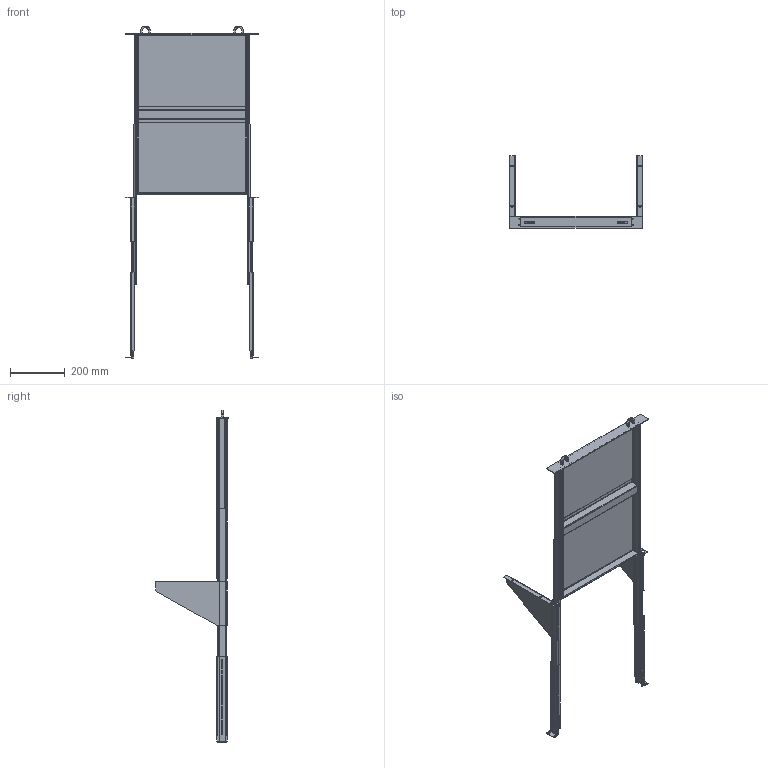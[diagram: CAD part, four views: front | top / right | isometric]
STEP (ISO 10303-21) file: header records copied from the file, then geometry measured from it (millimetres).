
FILE_DESCRIPTION((''),'2;1');
FILE_NAME('ASS5-23VTR_ASM','2013-08-28T',('bmann'),('Middle Atlantic Products'),'PRO/ENGINEER BY PARAMETRIC TECHNOLOGY CORPORATION, 2012420','PRO/ENGINEER BY PARAMETRIC TECHNOLOGY CORPORATION, 2012420','');
FILE_SCHEMA(('CONFIG_CONTROL_DESIGN'));
Length unit declared in the file: inch
Products named in the file (13): BVTRB; BVTRBS; PVTRB_ASM; 500-00743_SLIDE_OUTER; 500-00743_SLIDE_MIDDLE; 500-00734_SLIDE_INNER; 500-00743_OPEN_ASM; PVTR5EL; PVTR5ER; PVTRFP; PVTRRS; 500-00751; ASS5-23VTR_ASM
Assembly tree (15 placements, depth 3):
  ASS5-23VTR_ASM
    PVTRB_ASM
      BVTRB
      BVTRBS
    500-00743_OPEN_ASM  x2
      500-00743_SLIDE_OUTER
      500-00743_SLIDE_MIDDLE
      500-00734_SLIDE_INNER
    PVTR5EL
    PVTR5ER
    PVTRFP
    PVTRRS  x2
    500-00751  x2
Bounding box: 483.01 x 265.63 x 1208.74 mm (x, y, z)
Volume: 872757.9 mm3; surface area: 1276598.1 mm2
Topology: 15 solids, 15 shells, 598 faces, 1364 edges, 800 vertices
Faces by surface type: plane 446, cylinder 140, bspline 12
Entity records: 11290 total; most frequent: CARTESIAN_POINT 2203, DIRECTION 1865, ORIENTED_EDGE 1766, EDGE_CURVE 883, VECTOR 689, LINE 689, AXIS2_PLACEMENT_3D 588, VERTEX_POINT 514
